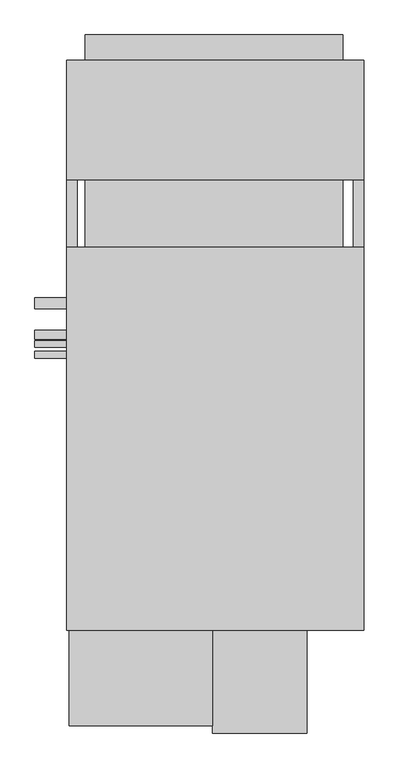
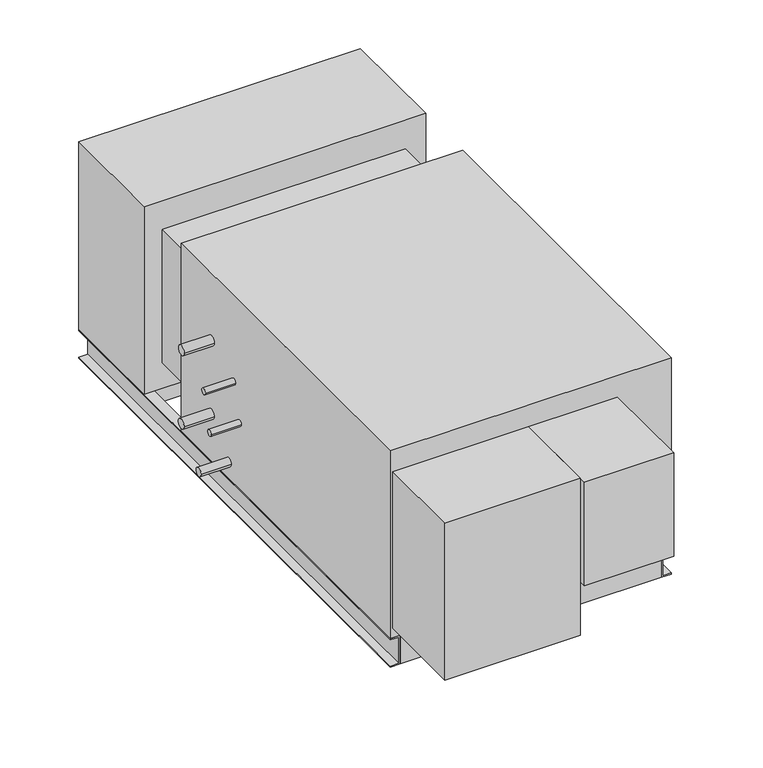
"""IFC4 building model written with IfcOpenShell, lengths in millimetres: proxy geometry, Horizontal_Direct_Drive_Blower_Coil_Unit_-_42DHA_-_CARRIER_-_4-Pipe_NFilterR_W-MixingBox_LH_2022 : Size 06 - 460v/60Hz/3Ph - 6/2 Coil."""

from ifc_helpers import new_model, si_unit, point, frame, frame_2d, origin, place, context, project, spatial, polyline, circle_curve, trimmed, segment, composite_curve, outline, extrude, source, transform, mapped, element, save


def mechanical_equipment_0e213d63(model_context):
    return source(origin(), model_context, "Body", "SweptSolid", [
        extrude(outline(polyline([(-406.4, 837.565), (-406.4, 685.165), (-1022.35, 685.165), (-1022.35, 837.565), (-406.4, 837.565)])), frame((0.0, 0.0, -562.61), z_axis=(0.0, 0.0, 1.0), x_axis=(1.0, 0.0, 0.0)), (0.0, 0.0, 1.0), 60.96),
        extrude(outline(polyline([(-1022.35, 1000.125), (-406.4, 1000.125), (-406.4, 939.165), (-1022.35, 939.165), (-1022.35, 1000.125)])), frame((0.0, 0.0, -228.6), z_axis=(0.0, 0.0, 1.0), x_axis=(1.0, 0.0, 0.0)), (0.0, 0.0, 1.0), 152.4),
        extrude(outline(polyline([(-355.6, 939.165), (-355.6, 654.05), (-1066.8, 654.05), (-1066.8, 939.165), (-355.6, 939.165)])), frame((0.0, 0.0, -501.65), z_axis=(0.0, 0.0, 1.0), x_axis=(1.0, 0.0, 0.0)), (0.0, 0.0, 1.0), 501.65),
        extrude(outline(polyline([(-381.0, -396.875), (-381.0, -422.275), (-1041.4, -422.275), (-1041.4, -396.875), (-381.0, -396.875)])), frame((0.0, 0.0, -577.85), z_axis=(0.0, 0.0, 1.0), x_axis=(1.0, 0.0, 0.0)), (0.0, 0.0, 1.0), 76.2),
        extrude(outline(polyline([(-381.0, 939.165), (-381.0, 913.765), (-1041.4, 913.765), (-1041.4, 939.165), (-381.0, 939.165)])), frame((0.0, 0.0, -577.85), z_axis=(0.0, 0.0, 1.0), x_axis=(1.0, 0.0, 0.0)), (0.0, 0.0, 1.0), 76.2),
        extrude(outline(polyline([(-501.65, -1041.4), (-501.65, -1066.8), (-504.825, -1066.8), (-504.825, -1044.575), (-574.675, -1044.575), (-574.675, -1066.8), (-577.85, -1066.8), (-577.85, -1041.4), (-501.65, -1041.4)])), frame((0.0, -422.275, 0.0), z_axis=(0.0, 1.0, 0.0), x_axis=(0.0, 0.0, 1.0)), (0.0, 0.0, 1.0), 1361.44),
        extrude(outline(polyline([(-501.65, -381.0), (-577.85, -381.0), (-577.85, -355.6), (-574.675, -355.6), (-574.675, -377.825), (-504.825, -377.825), (-504.825, -355.6), (-501.65, -355.6), (-501.65, -381.0)])), frame((0.0, -422.275, 0.0), z_axis=(0.0, 1.0, 0.0), x_axis=(0.0, 0.0, 1.0)), (0.0, 0.0, 1.0), 1361.44),
        extrude(outline(composite_curve([segment(trimmed(circle_curve(frame_2d((358.775, -177.8)), 12.7), [point((371.475, -177.8))], [point((346.075, -177.8))], False, "CARTESIAN"), True, "CONTINUOUS"), segment(trimmed(circle_curve(frame_2d((358.775, -177.8)), 12.7), [point((346.075, -177.8))], [point((371.475, -177.8))], False, "CARTESIAN"), True, "CONTINUOUS")], self_intersect=False)), frame((-1143.0, 0.0, 0.0), z_axis=(1.0, 0.0, 0.0), x_axis=(0.0, 1.0, 0.0)), (0.0, 0.0, 1.0), 76.2),
        extrude(outline(composite_curve([segment(trimmed(circle_curve(frame_2d((359.642288, -374.65)), 12.7), [point((372.342288, -374.65))], [point((346.942288, -374.65))], False, "CARTESIAN"), True, "CONTINUOUS"), segment(trimmed(circle_curve(frame_2d((359.642288, -374.65)), 12.7), [point((346.942288, -374.65))], [point((372.342288, -374.65))], False, "CARTESIAN"), True, "CONTINUOUS")], self_intersect=False)), frame((-1143.0, 0.0, 0.0), z_axis=(1.0, 0.0, 0.0), x_axis=(0.0, 1.0, 0.0)), (0.0, 0.0, 1.0), 76.2),
        extrude(outline(composite_curve([segment(trimmed(circle_curve(frame_2d((283.442288, -457.2)), 11.1125), [point((294.554788, -457.2))], [point((272.329788, -457.2))], False, "CARTESIAN"), True, "CONTINUOUS"), segment(trimmed(circle_curve(frame_2d((283.442288, -457.2)), 11.1125), [point((272.329788, -457.2))], [point((294.554788, -457.2))], False, "CARTESIAN"), True, "CONTINUOUS")], self_intersect=False)), frame((-1143.0, 0.0, 0.0), z_axis=(1.0, 0.0, 0.0), x_axis=(0.0, 1.0, 0.0)), (0.0, 0.0, 1.0), 76.2),
        extrude(outline(composite_curve([segment(trimmed(circle_curve(frame_2d((261.217288, -228.6)), 7.9375), [point((269.154788, -228.6))], [point((253.279788, -228.6))], False, "CARTESIAN"), True, "CONTINUOUS"), segment(trimmed(circle_curve(frame_2d((261.217288, -228.6)), 7.9375), [point((253.279788, -228.6))], [point((269.154788, -228.6))], False, "CARTESIAN"), True, "CONTINUOUS")], self_intersect=False)), frame((-1143.0, 0.0, 0.0), z_axis=(1.0, 0.0, 0.0), x_axis=(0.0, 1.0, 0.0)), (0.0, 0.0, 1.0), 76.2),
        extrude(outline(composite_curve([segment(trimmed(circle_curve(frame_2d((235.817288, -324.1292556)), 7.9375), [point((243.754788, -324.1292556))], [point((227.879788, -324.1292556))], False, "CARTESIAN"), True, "CONTINUOUS"), segment(trimmed(circle_curve(frame_2d((235.817288, -324.1292556)), 7.9375), [point((227.879788, -324.1292556))], [point((243.754788, -324.1292556))], False, "CARTESIAN"), True, "CONTINUOUS")], self_intersect=False)), frame((-1143.0, 0.0, 0.0), z_axis=(1.0, 0.0, 0.0), x_axis=(0.0, 1.0, 0.0)), (0.0, 0.0, 1.0), 76.2),
        extrude(outline(polyline([(-355.6, 492.125), (-355.6, -422.275), (-1066.8, -422.275), (-1066.8, 492.125), (-355.6, 492.125)])), frame((0.0, 0.0, -501.65), z_axis=(0.0, 0.0, 1.0), x_axis=(1.0, 0.0, 0.0)), (0.0, 0.0, 1.0), 501.65),
        extrude(outline(polyline([(-717.55, -650.875), (-1060.45, -650.875), (-1060.45, -422.275), (-717.55, -422.275), (-717.55, -650.875)])), frame((0.0, 0.0, -476.25), z_axis=(0.0, 0.0, 1.0), x_axis=(1.0, 0.0, 0.0)), (0.0, 0.0, 1.0), 419.1),
        extrude(outline(polyline([(-1022.35, 654.05), (-406.4, 654.05), (-406.4, 492.125), (-1022.35, 492.125), (-1022.35, 654.05)])), frame((0.0, 0.0, -431.8), z_axis=(0.0, 0.0, 1.0), x_axis=(1.0, 0.0, 0.0)), (0.0, 0.0, 1.0), 355.6),
        extrude(outline(polyline([(-492.125, -668.3375), (-717.55, -668.3375), (-717.55, -422.275), (-492.125, -422.275), (-492.125, -668.3375)])), frame((0.0, 0.0, -333.375), z_axis=(0.0, 0.0, 1.0), x_axis=(1.0, 0.0, 0.0)), (0.0, 0.0, 1.0), 276.225),
    ])


if __name__ == "__main__":
    model = new_model("IFC4")
    model_context = context("Model", 3, world=origin())
    ifc_project = project(units=[si_unit("LENGTHUNIT", "METRE", prefix="MILLI")], contexts=[model_context])
    site = spatial("IfcSite", under=ifc_project)
    building = spatial("IfcBuilding", under=site)
    placement = place(None, origin())
    mechanical_equipment_shape = mechanical_equipment_0e213d63(model_context)
    element("IfcBuildingElementProxy", 1, Name="Horizontal_Direct_Drive_Blower_Coil_Unit_-_42DHA_-_CARRIER_-_4-Pipe_NFilterR_W-MixingBox_LH_2022 : Size 06 - 460v/60Hz/3Ph - 6/2 Coil", ObjectType="Horizontal_Direct_Drive_Blower_Coil_Unit_-_42DHA_-_CARRIER_-_4-Pipe_NFilterR_W-MixingBox_LH_2022 : Size 06 - 460v/60Hz/3Ph - 6/2 Coil", at=placement, inside=building, context=model_context, shape_type="MappedRepresentation", body=[
        mapped(mechanical_equipment_shape, transform((0.0, 0.0, 0.0), x_axis=(1.0, 0.0, 0.0), y_axis=(0.0, 1.0, 0.0), z_axis=(0.0, 0.0, 1.0))),
    ])
    save(model, "model.ifc")
